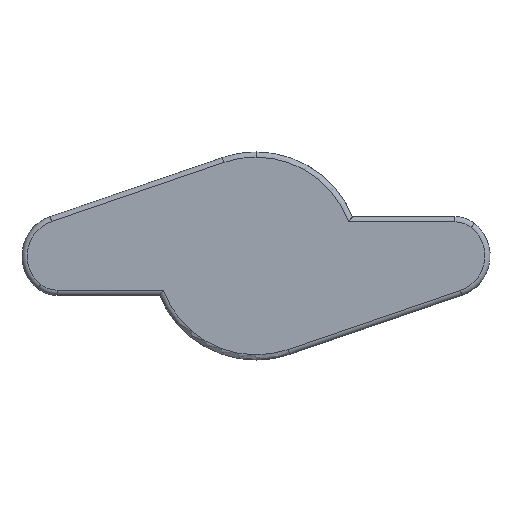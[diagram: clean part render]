
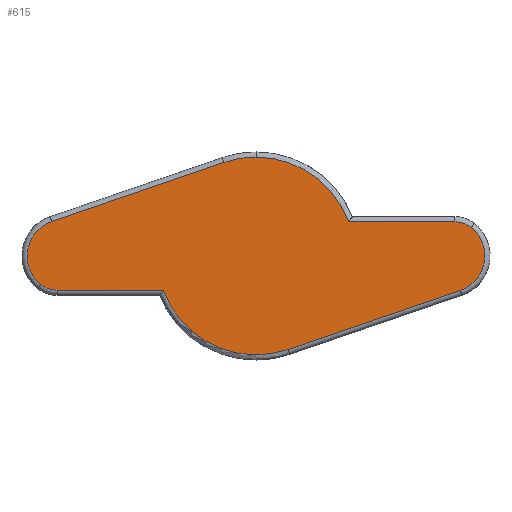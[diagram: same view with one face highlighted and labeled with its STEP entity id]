
A CAD part, front view. The second image highlights one B-rep face of the part: STEP entity #615.
In plain terms, the highlighted planar face has unit normal (0, -1, 0).
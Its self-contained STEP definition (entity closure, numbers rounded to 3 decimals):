
#5 = VERTEX_POINT ( 'NONE', #951 ) ;
#51 = AXIS2_PLACEMENT_3D ( 'NONE', #1255, #3210, #1530 ) ;
#72 = CARTESIAN_POINT ( 'NONE',  ( 3.081, 0., -8.986 ) ) ;
#87 = CARTESIAN_POINT ( 'NONE',  ( 19.121, 0., 0.784 ) ) ;
#92 = ORIENTED_EDGE ( 'NONE', *, *, #1154, .T. ) ;
#160 = DIRECTION ( 'NONE',  ( -0.946, 0., -0.324 ) ) ;
#162 = DIRECTION ( 'NONE',  ( 0., 0., 1. ) ) ;
#175 = CIRCLE ( 'NONE', #1511, 2.5 ) ;
#244 = DIRECTION ( 'NONE',  ( 0., 0., 1. ) ) ;
#252 = EDGE_CURVE ( 'NONE', #1350, #1365, #1377, .T. ) ;
#279 = DIRECTION ( 'NONE',  ( 0., 0., 1. ) ) ;
#361 = ORIENTED_EDGE ( 'NONE', *, *, #3101, .T. ) ;
#379 = DIRECTION ( 'NONE',  ( 0., 0., 1. ) ) ;
#402 = ORIENTED_EDGE ( 'NONE', *, *, #2670, .T. ) ;
#491 = ORIENTED_EDGE ( 'NONE', *, *, #1545, .T. ) ;
#514 = EDGE_CURVE ( 'NONE', #920, #1931, #2923, .T. ) ;
#538 = CARTESIAN_POINT ( 'NONE',  ( -18.5, 0., 0. ) ) ;
#539 = ORIENTED_EDGE ( 'NONE', *, *, #252, .T. ) ;
#553 = CARTESIAN_POINT ( 'NONE',  ( 0., 0., 9.5 ) ) ;
#615 = ADVANCED_FACE ( 'NONE', ( #1333 ), #2182, .F. ) ;
#635 = CARTESIAN_POINT ( 'NONE',  ( -19.121, 0., -0.784 ) ) ;
#664 = AXIS2_PLACEMENT_3D ( 'NONE', #538, #765, #734 ) ;
#688 = AXIS2_PLACEMENT_3D ( 'NONE', #87, #2055, #379 ) ;
#734 = DIRECTION ( 'NONE',  ( 0., 0., 1. ) ) ;
#765 = DIRECTION ( 'NONE',  ( 0., -1., 0. ) ) ;
#777 = AXIS2_PLACEMENT_3D ( 'NONE', #3452, #3420, #244 ) ;
#875 = VERTEX_POINT ( 'NONE', #3192 ) ;
#917 = DIRECTION ( 'NONE',  ( 0., 0., 1. ) ) ;
#920 = VERTEX_POINT ( 'NONE', #3219 ) ;
#951 = CARTESIAN_POINT ( 'NONE',  ( -3.081, 0., 8.986 ) ) ;
#987 = VECTOR ( 'NONE', #3313, 1000. ) ;
#1013 = ORIENTED_EDGE ( 'NONE', *, *, #3424, .T. ) ;
#1028 = AXIS2_PLACEMENT_3D ( 'NONE', #3603, #1955, #279 ) ;
#1154 = EDGE_CURVE ( 'NONE', #3293, #3169, #2531, .T. ) ;
#1182 = ORIENTED_EDGE ( 'NONE', *, *, #3003, .T. ) ;
#1200 = DIRECTION ( 'NONE',  ( 0.946, 0., 0.324 ) ) ;
#1242 = EDGE_CURVE ( 'NONE', #2122, #875, #2076, .T. ) ;
#1249 = CARTESIAN_POINT ( 'NONE',  ( 19.121, 0., 3.284 ) ) ;
#1255 = CARTESIAN_POINT ( 'NONE',  ( 18.5, 0., 0. ) ) ;
#1271 = CARTESIAN_POINT ( 'NONE',  ( 0., 0., 3.284 ) ) ;
#1285 = CIRCLE ( 'NONE', #688, 2.5 ) ;
#1327 = VECTOR ( 'NONE', #1200, 1000. ) ;
#1333 = FACE_OUTER_BOUND ( 'NONE', #2191, .T. ) ;
#1336 = CIRCLE ( 'NONE', #51, 3.5 ) ;
#1350 = VERTEX_POINT ( 'NONE', #2373 ) ;
#1365 = VERTEX_POINT ( 'NONE', #3607 ) ;
#1377 = LINE ( 'NONE', #2437, #2880 ) ;
#1511 = AXIS2_PLACEMENT_3D ( 'NONE', #635, #2619, #917 ) ;
#1530 = DIRECTION ( 'NONE',  ( 0., 0., 1. ) ) ;
#1545 = EDGE_CURVE ( 'NONE', #2784, #1628, #1285, .T. ) ;
#1603 = DIRECTION ( 'NONE',  ( 0., -1., 0. ) ) ;
#1628 = VERTEX_POINT ( 'NONE', #1249 ) ;
#1659 = DIRECTION ( 'NONE',  ( 1., 0., 0. ) ) ;
#1675 = ORIENTED_EDGE ( 'NONE', *, *, #1242, .T. ) ;
#1847 = CARTESIAN_POINT ( 'NONE',  ( -3.081, 0., 8.986 ) ) ;
#1851 = DIRECTION ( 'NONE',  ( 0., -1., 0. ) ) ;
#1866 = LINE ( 'NONE', #1847, #3350 ) ;
#1883 = CARTESIAN_POINT ( 'NONE',  ( 3.081, 0., -8.986 ) ) ;
#1892 = ORIENTED_EDGE ( 'NONE', *, *, #2404, .T. ) ;
#1907 = CIRCLE ( 'NONE', #2317, 9.5 ) ;
#1913 = CIRCLE ( 'NONE', #3358, 9.5 ) ;
#1931 = VERTEX_POINT ( 'NONE', #3593 ) ;
#1955 = DIRECTION ( 'NONE',  ( 0., -1., 0. ) ) ;
#2055 = DIRECTION ( 'NONE',  ( 0., -1., 0. ) ) ;
#2076 = LINE ( 'NONE', #72, #1327 ) ;
#2122 = VERTEX_POINT ( 'NONE', #1883 ) ;
#2182 = PLANE ( 'NONE',  #777 ) ;
#2191 = EDGE_LOOP ( 'NONE', ( #1182, #1675, #2864, #491, #361, #92, #1013, #402, #2765, #1892, #539 ) ) ;
#2317 = AXIS2_PLACEMENT_3D ( 'NONE', #3508, #1851, #162 ) ;
#2373 = CARTESIAN_POINT ( 'NONE',  ( -19.121, 0., -3.284 ) ) ;
#2377 = CARTESIAN_POINT ( 'NONE',  ( 8.914, 0., 3.284 ) ) ;
#2404 = EDGE_CURVE ( 'NONE', #1931, #1350, #175, .T. ) ;
#2437 = CARTESIAN_POINT ( 'NONE',  ( 0., 0., -3.284 ) ) ;
#2531 = CIRCLE ( 'NONE', #1028, 9.5 ) ;
#2619 = DIRECTION ( 'NONE',  ( 0., -1., 0. ) ) ;
#2670 = EDGE_CURVE ( 'NONE', #5, #920, #1866, .T. ) ;
#2732 = CARTESIAN_POINT ( 'NONE',  ( 20.674, 0., 2.743 ) ) ;
#2765 = ORIENTED_EDGE ( 'NONE', *, *, #514, .T. ) ;
#2784 = VERTEX_POINT ( 'NONE', #2732 ) ;
#2864 = ORIENTED_EDGE ( 'NONE', *, *, #2936, .T. ) ;
#2880 = VECTOR ( 'NONE', #1659, 1000. ) ;
#2923 = CIRCLE ( 'NONE', #664, 3.5 ) ;
#2936 = EDGE_CURVE ( 'NONE', #875, #2784, #1336, .T. ) ;
#3003 = EDGE_CURVE ( 'NONE', #1365, #2122, #1907, .T. ) ;
#3101 = EDGE_CURVE ( 'NONE', #1628, #3293, #3218, .T. ) ;
#3169 = VERTEX_POINT ( 'NONE', #553 ) ;
#3192 = CARTESIAN_POINT ( 'NONE',  ( 19.635, 0., -3.311 ) ) ;
#3210 = DIRECTION ( 'NONE',  ( 0., -1., 0. ) ) ;
#3218 = LINE ( 'NONE', #1271, #987 ) ;
#3219 = CARTESIAN_POINT ( 'NONE',  ( -19.635, 0., 3.311 ) ) ;
#3276 = CARTESIAN_POINT ( 'NONE',  ( 0., 0., 0. ) ) ;
#3293 = VERTEX_POINT ( 'NONE', #2377 ) ;
#3313 = DIRECTION ( 'NONE',  ( -1., 0., 0. ) ) ;
#3350 = VECTOR ( 'NONE', #160, 1000. ) ;
#3358 = AXIS2_PLACEMENT_3D ( 'NONE', #3276, #1603, #3535 ) ;
#3420 = DIRECTION ( 'NONE',  ( 0., 1., 0. ) ) ;
#3424 = EDGE_CURVE ( 'NONE', #3169, #5, #1913, .T. ) ;
#3452 = CARTESIAN_POINT ( 'NONE',  ( 0., 0., 0. ) ) ;
#3508 = CARTESIAN_POINT ( 'NONE',  ( 0., 0., 0. ) ) ;
#3535 = DIRECTION ( 'NONE',  ( 0., 0., 1. ) ) ;
#3593 = CARTESIAN_POINT ( 'NONE',  ( -20.674, 0., -2.743 ) ) ;
#3603 = CARTESIAN_POINT ( 'NONE',  ( 0., 0., 0. ) ) ;
#3607 = CARTESIAN_POINT ( 'NONE',  ( -8.914, 0., -3.284 ) ) ;
